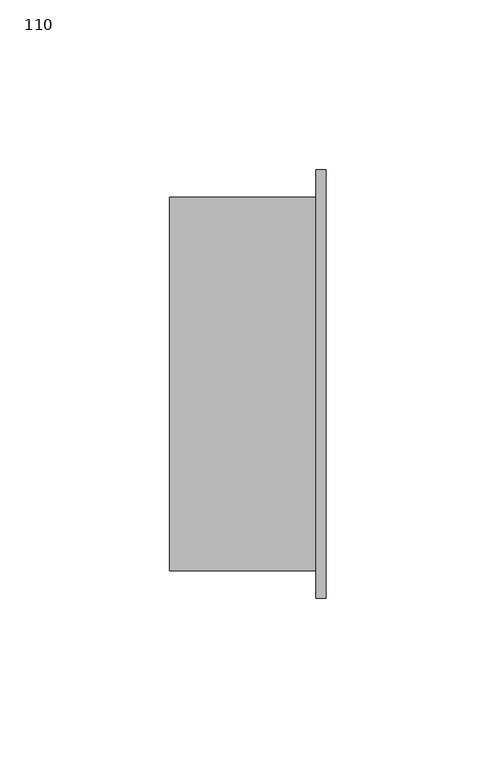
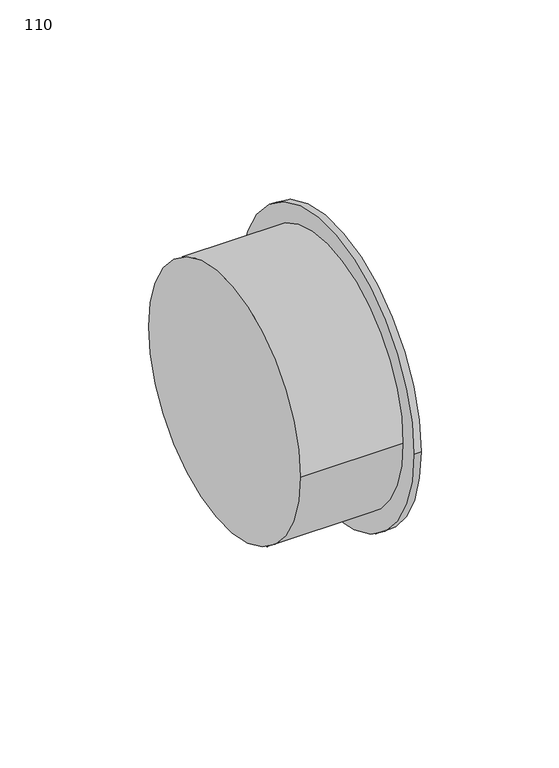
"""IFC4 building model written with IfcOpenShell, lengths in millimetres: pipe fitting geometry, Pipelife - PVC-U - Korek kanalizacyjny_studnia : 110."""

from ifc_helpers import new_model, si_unit, point, frame, origin, origin_2d, place, context, project, spatial, circle_curve, trimmed, segment, composite_curve, outline, extrude, source, transform, mapped, element, save


def pipe_fitting_110_109a62c0(model_context):
    return source(origin(), model_context, "Body", "SweptSolid", [
        extrude(outline(composite_curve([segment(trimmed(circle_curve(origin_2d(), 55.0), [point((-55.0, 0.0))], [point((55.0, 0.0))], False, "CARTESIAN"), True, "CONTINUOUS"), segment(trimmed(circle_curve(origin_2d(), 55.0), [point((55.0, 0.0))], [point((-55.0, 0.0))], False, "CARTESIAN"), True, "CONTINUOUS")], self_intersect=False)), frame((-43.0, 0.0, 0.0), z_axis=(1.0, 0.0, 0.0), x_axis=(0.0, 1.0, 0.0)), (0.0, 0.0, 1.0), 43.0),
        extrude(outline(composite_curve([segment(trimmed(circle_curve(origin_2d(), 63.0), [point((-63.0, 0.0))], [point((63.0, 0.0))], False, "CARTESIAN"), True, "CONTINUOUS"), segment(trimmed(circle_curve(origin_2d(), 63.0), [point((63.0, 0.0))], [point((-63.0, 0.0))], False, "CARTESIAN"), True, "CONTINUOUS")], self_intersect=False)), frame((0.0, 0.0, 0.0), z_axis=(1.0, 0.0, 0.0), x_axis=(0.0, 1.0, 0.0)), (0.0, 0.0, 1.0), 3.0),
    ])


if __name__ == "__main__":
    model = new_model("IFC4")
    model_context = context("Model", 3, world=origin())
    ifc_project = project(units=[si_unit("LENGTHUNIT", "METRE", prefix="MILLI")], contexts=[model_context])
    site = spatial("IfcSite", under=ifc_project)
    building = spatial("IfcBuilding", under=site)
    placement = place(None, origin())
    pipe_fitting_110_shape = pipe_fitting_110_109a62c0(model_context)
    element("IfcPipeFitting", 1, ObjectType="Pipelife - PVC-U - Korek kanalizacyjny_studnia : 110", at=placement, inside=building, context=model_context, shape_type="MappedRepresentation", body=[
        mapped(pipe_fitting_110_shape, transform((0.0, 0.0, 0.0), x_axis=(1.0, 0.0, 0.0), y_axis=(0.0, 1.0, 0.0), z_axis=(0.0, 0.0, 1.0))),
    ])
    save(model, "model.ifc")
